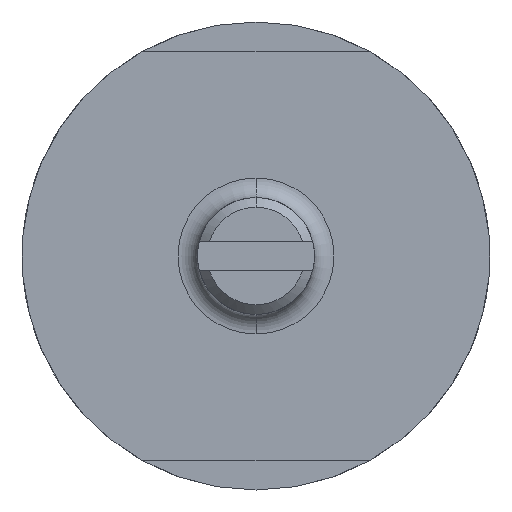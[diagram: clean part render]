
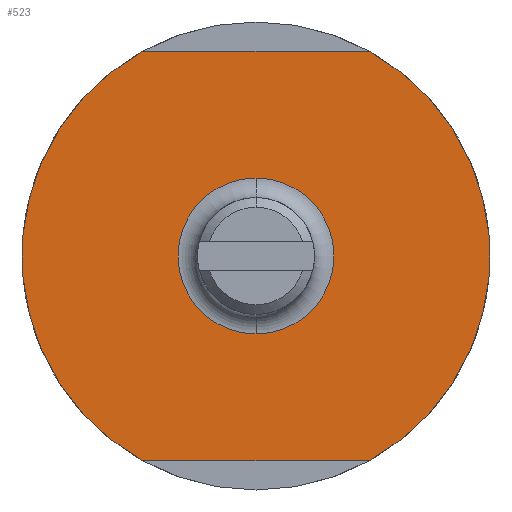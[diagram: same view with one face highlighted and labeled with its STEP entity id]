
A CAD part, front view. The second image highlights one B-rep face of the part: STEP entity #523.
In plain terms, the highlighted planar face has unit normal (0, -1, 0).
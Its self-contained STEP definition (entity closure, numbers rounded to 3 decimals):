
#94 = EDGE_LOOP ( 'NONE', ( #688, #735, #1020, #616 ) ) ;
#117 = FACE_BOUND ( 'NONE', #853, .T. ) ;
#177 = VECTOR ( 'NONE', #200, 1000. ) ;
#182 = CARTESIAN_POINT ( 'NONE',  ( -12., 0., 0. ) ) ;
#200 = DIRECTION ( 'NONE',  ( 1., 0., 0. ) ) ;
#202 = CARTESIAN_POINT ( 'NONE',  ( 0., 0., 0. ) ) ;
#220 = AXIS2_PLACEMENT_3D ( 'NONE', #182, #554, #1419 ) ;
#302 = VERTEX_POINT ( 'NONE', #387 ) ;
#326 = DIRECTION ( 'NONE',  ( 0., 0., -1. ) ) ;
#329 = EDGE_CURVE ( 'NONE', #561, #1222, #1341, .T. ) ;
#350 = LINE ( 'NONE', #1319, #177 ) ;
#353 = EDGE_CURVE ( 'NONE', #1260, #1061, #1017, .T. ) ;
#387 = CARTESIAN_POINT ( 'NONE',  ( 0., 0., -4. ) ) ;
#398 = CARTESIAN_POINT ( 'NONE',  ( -12., 0., 10.5 ) ) ;
#404 = EDGE_CURVE ( 'NONE', #302, #1346, #892, .T. ) ;
#438 = AXIS2_PLACEMENT_3D ( 'NONE', #1409, #668, #1528 ) ;
#465 = EDGE_CURVE ( 'NONE', #1346, #302, #848, .T. ) ;
#521 = DIRECTION ( 'NONE',  ( -1., 0., 0. ) ) ;
#523 = ADVANCED_FACE ( 'NONE', ( #117, #782 ), #542, .F. ) ;
#542 = PLANE ( 'NONE',  #220 ) ;
#554 = DIRECTION ( 'NONE',  ( 0., 1., 0. ) ) ;
#561 = VERTEX_POINT ( 'NONE', #1490 ) ;
#589 = AXIS2_PLACEMENT_3D ( 'NONE', #202, #1073, #326 ) ;
#616 = ORIENTED_EDGE ( 'NONE', *, *, #1562, .T. ) ;
#643 = CARTESIAN_POINT ( 'NONE',  ( 0., 0., 0. ) ) ;
#668 = DIRECTION ( 'NONE',  ( 0., -1., 0. ) ) ;
#674 = DIRECTION ( 'NONE',  ( 0., -1., 0. ) ) ;
#688 = ORIENTED_EDGE ( 'NONE', *, *, #353, .T. ) ;
#735 = ORIENTED_EDGE ( 'NONE', *, *, #901, .T. ) ;
#771 = DIRECTION ( 'NONE',  ( 0., 0., -1. ) ) ;
#782 = FACE_OUTER_BOUND ( 'NONE', #94, .T. ) ;
#822 = ORIENTED_EDGE ( 'NONE', *, *, #404, .F. ) ;
#824 = AXIS2_PLACEMENT_3D ( 'NONE', #1415, #674, #1539 ) ;
#844 = AXIS2_PLACEMENT_3D ( 'NONE', #643, #1506, #771 ) ;
#848 = CIRCLE ( 'NONE', #438, 4. ) ;
#853 = EDGE_LOOP ( 'NONE', ( #822, #1257 ) ) ;
#892 = CIRCLE ( 'NONE', #589, 4. ) ;
#901 = EDGE_CURVE ( 'NONE', #1061, #561, #350, .T. ) ;
#906 = CARTESIAN_POINT ( 'NONE',  ( -5.809, 0., -10.5 ) ) ;
#908 = CARTESIAN_POINT ( 'NONE',  ( 5.809, 0., 10.5 ) ) ;
#918 = VECTOR ( 'NONE', #521, 1000. ) ;
#1017 = CIRCLE ( 'NONE', #824, 12. ) ;
#1020 = ORIENTED_EDGE ( 'NONE', *, *, #329, .T. ) ;
#1061 = VERTEX_POINT ( 'NONE', #906 ) ;
#1073 = DIRECTION ( 'NONE',  ( 0., -1., 0. ) ) ;
#1187 = CARTESIAN_POINT ( 'NONE',  ( 0., 0., 4. ) ) ;
#1222 = VERTEX_POINT ( 'NONE', #908 ) ;
#1257 = ORIENTED_EDGE ( 'NONE', *, *, #465, .F. ) ;
#1260 = VERTEX_POINT ( 'NONE', #1407 ) ;
#1295 = LINE ( 'NONE', #398, #918 ) ;
#1319 = CARTESIAN_POINT ( 'NONE',  ( -12., 0., -10.5 ) ) ;
#1341 = CIRCLE ( 'NONE', #844, 12. ) ;
#1346 = VERTEX_POINT ( 'NONE', #1187 ) ;
#1407 = CARTESIAN_POINT ( 'NONE',  ( -5.809, 0., 10.5 ) ) ;
#1409 = CARTESIAN_POINT ( 'NONE',  ( 0., 0., 0. ) ) ;
#1415 = CARTESIAN_POINT ( 'NONE',  ( 0., 0., 0. ) ) ;
#1419 = DIRECTION ( 'NONE',  ( 0., 0., 1. ) ) ;
#1490 = CARTESIAN_POINT ( 'NONE',  ( 5.809, 0., -10.5 ) ) ;
#1506 = DIRECTION ( 'NONE',  ( 0., -1., 0. ) ) ;
#1528 = DIRECTION ( 'NONE',  ( 0., 0., -1. ) ) ;
#1539 = DIRECTION ( 'NONE',  ( 0., 0., -1. ) ) ;
#1562 = EDGE_CURVE ( 'NONE', #1222, #1260, #1295, .T. ) ;
